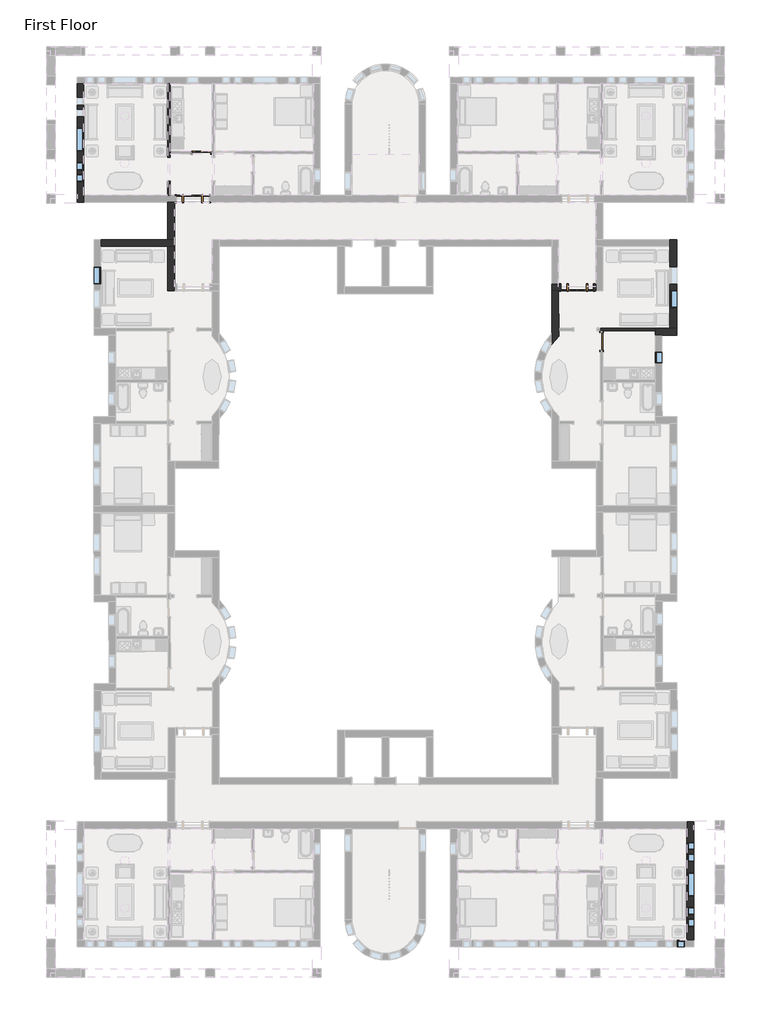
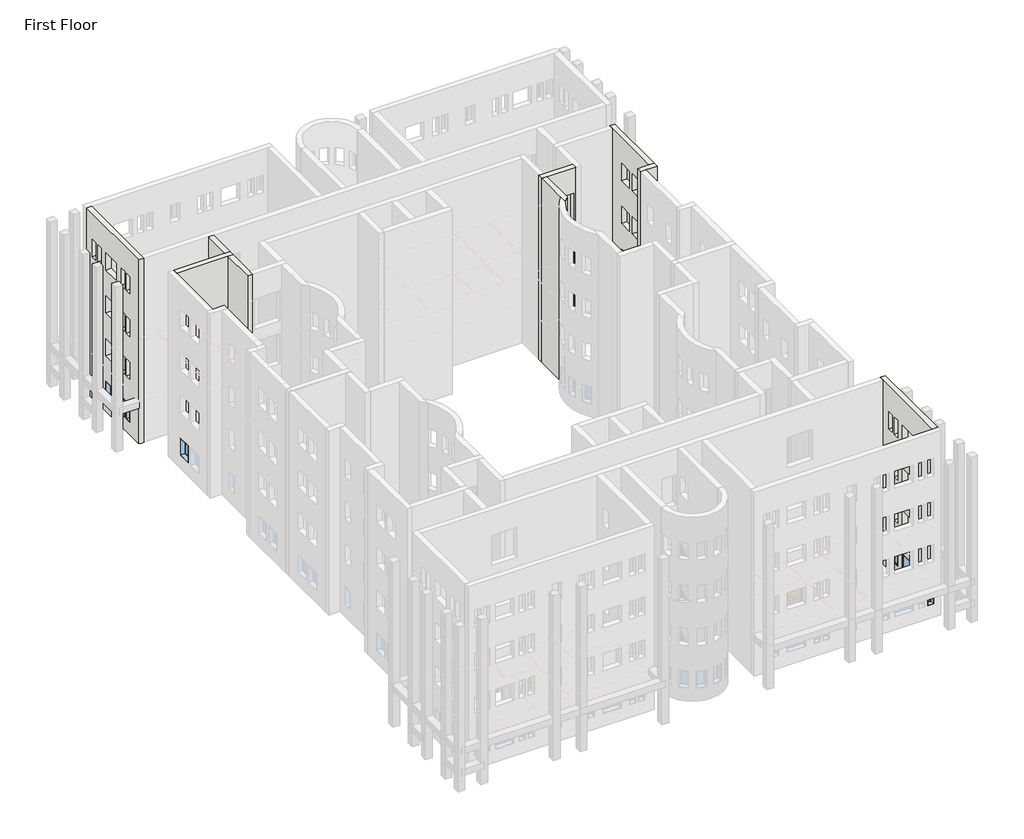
# One storey, part 12 of 21: 12 windows, 11 walls, 4 doors.
"""IFC4 building model written with IfcOpenShell, lengths in millimetres."""

from ifc_helpers import new_model, si_unit, frame, origin, origin_with_axes, place, context, project, spatial, polyline, circle_curve, outline, extrude, faceted_brep, transform, mapped, element, save
from ifc_brep_helpers import plane_surface, revolved_surface, advanced_brep
from components import door_2e3b4da2, door_a3eb833a, door_ffdb1193, window_da97879f, window_d61ef850, window_ed80354a, window_15c49d37, window_0e2fc6ce, window_d89bf842

model = new_model("IFC4")

# Units and contexts
model_context = context("Model", 3, world=origin())
ifc_project = project(units=[si_unit("LENGTHUNIT", "METRE", prefix="MILLI")], contexts=[model_context])

# Site, building, storey
site = spatial("IfcSite", under=ifc_project)
building = spatial("IfcBuilding", under=site)
storey = spatial("IfcBuildingStorey", under=building, Name="First Floor", Elevation=0.0)

# Doors
placement = place(None, origin())
door_shape = door_2e3b4da2(model_context)
element("IfcDoor", 1, ObjectType="Single-Decorative 2 : 36\" x 84\"", at=placement, inside=storey, context=model_context, shape_type="MappedRepresentation", body=[
    mapped(door_shape, transform((-24420.4839563, 6723.5441867, 0.0), x_axis=(1.0, 0.0, 0.0), y_axis=(0.0, 1.0, 0.0), z_axis=(0.0, 0.0, 1.0))),
])
door_2_shape = door_a3eb833a(model_context)
element("IfcDoor", 2, ObjectType="Single-Flush : 36\" x 84\"", at=placement, inside=storey, context=model_context, shape_type="MappedRepresentation", body=[
    mapped(door_2_shape, transform((-3771.2141111, -3005.4940393, 0.0), x_axis=(-0.0007588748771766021, 0.999999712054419, 0.0), y_axis=(-0.999999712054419, -0.0007588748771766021, 0.0), z_axis=(0.0, 0.0, 1.0))),
])
door_3_shape = door_ffdb1193(model_context)
element("IfcDoor", 3, ObjectType="Single-Raised Panel with Sidelights : 36\" x 84\"", at=placement, inside=storey, context=model_context, shape_type="MappedRepresentation", body=[
    mapped(door_3_shape, transform((-24877.6839563, 4350.2316867, 0.0), x_axis=(1.0, 0.0, 0.0), y_axis=(0.0, 1.0, 0.0), z_axis=(0.0, 0.0, 1.0))),
])
element("IfcDoor", 4, ObjectType="Single-Raised Panel with Sidelights : 36\" x 84\"", at=placement, inside=storey, context=model_context, shape_type="MappedRepresentation", body=[
    mapped(door_3_shape, transform((-5029.0381129, -223.5602693, 0.0), x_axis=(-0.9999997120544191, -0.0007588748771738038, 0.0), y_axis=(0.0007588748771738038, -0.9999997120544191, 0.0), z_axis=(0.0, 0.0, 1.0))),
])

# Walls
element("IfcWall", 5, ObjectType="Exterior - Brick on Mtl. Stud", at=placement, inside=storey, context=model_context, shape_type="SweptSolid", body=[
    extrude(outline(polyline([(-25807.9589563, 4174.0191867), (-25807.9589563, 2239.3865094), (-26160.3839563, 2239.653956), (-26160.3839563, 4174.0191867), (-25807.9589563, 4174.0191867)])), origin_with_axes(), (0.0, 0.0, 1.0), 13106.4),
])
element("IfcWall", 6, ObjectType="Exterior - Brick on Mtl. Stud", at=placement, inside=storey, context=model_context, shape_type="Brep", body=[
    faceted_brep([(-30845.0964563, 10270.0191867, 13106.4), (-30845.0964563, 4174.0191867, 13106.4), (-30492.6714563, 4174.0191867, 13106.4), (-30492.6714563, 4526.4441867, 13106.4), (-30492.6714563, 10270.0191867, 13106.4), (-30845.0964563, 10270.0191867, 0.0), (-30845.0964563, 4361.3441867, 0.0), (-30845.0964563, 4174.0191867, 0.0), (-30845.0964563, 5823.4316867, 8229.6), (-30845.0964563, 5823.4316867, 7010.4), (-30845.0964563, 6229.8316867, 7010.4), (-30845.0964563, 6229.8316867, 8229.6), (-30845.0964563, 5213.8316867, 8229.6), (-30845.0964563, 5213.8316867, 7010.4), (-30845.0964563, 5620.2316867, 7010.4), (-30845.0964563, 5620.2316867, 8229.6), (-30845.0964563, 8973.0316867, 8229.6), (-30845.0964563, 8566.6316867, 8229.6), (-30845.0964563, 8566.6316867, 7010.4), (-30845.0964563, 8973.0316867, 7010.4), (-30845.0964563, 9582.6316867, 8229.6), (-30845.0964563, 9176.2316867, 8229.6), (-30845.0964563, 9176.2316867, 7010.4), (-30845.0964563, 9582.6316867, 7010.4), (-30845.0964563, 8007.8316867, 8229.6), (-30845.0964563, 6788.6316867, 8229.6), (-30845.0964563, 6788.6316867, 7010.4), (-30845.0964563, 8007.8316867, 7010.4), (-30845.0964563, 5823.4316867, 5181.6), (-30845.0964563, 5823.4316867, 3962.4), (-30845.0964563, 6229.8316867, 3962.4), (-30845.0964563, 6229.8316867, 5181.6), (-30845.0964563, 5213.8316867, 5181.6), (-30845.0964563, 5213.8316867, 3962.4), (-30845.0964563, 5620.2316867, 3962.4), (-30845.0964563, 5620.2316867, 5181.6), (-30845.0964563, 8973.0316867, 5181.6), (-30845.0964563, 8566.6316867, 5181.6), (-30845.0964563, 8566.6316867, 3962.4), (-30845.0964563, 8973.0316867, 3962.4), (-30845.0964563, 9582.6316867, 5181.6), (-30845.0964563, 9176.2316867, 5181.6), (-30845.0964563, 9176.2316867, 3962.4), (-30845.0964563, 9582.6316867, 3962.4), (-30845.0964563, 8007.8316867, 5181.6), (-30845.0964563, 6788.6316867, 5181.6), (-30845.0964563, 6788.6316867, 3962.4), (-30845.0964563, 8007.8316867, 3962.4), (-30845.0964563, 5823.4316867, 11277.6), (-30845.0964563, 5823.4316867, 10058.4), (-30845.0964563, 6229.8316867, 10058.4), (-30845.0964563, 6229.8316867, 11277.6), (-30845.0964563, 5213.8316867, 11277.6), (-30845.0964563, 5213.8316867, 10058.4), (-30845.0964563, 5620.2316867, 10058.4), (-30845.0964563, 5620.2316867, 11277.6), (-30845.0964563, 8973.0316867, 11277.6), (-30845.0964563, 8566.6316867, 11277.6), (-30845.0964563, 8566.6316867, 10058.4), (-30845.0964563, 8973.0316867, 10058.4), (-30845.0964563, 9582.6316867, 11277.6), (-30845.0964563, 9176.2316867, 11277.6), (-30845.0964563, 9176.2316867, 10058.4), (-30845.0964563, 9582.6316867, 10058.4), (-30845.0964563, 8007.8316867, 11277.6), (-30845.0964563, 6788.6316867, 11277.6), (-30845.0964563, 6788.6316867, 10058.4), (-30845.0964563, 8007.8316867, 10058.4), (-30845.0964563, 5823.4316867, 2133.6), (-30845.0964563, 5823.4316867, 914.4), (-30845.0964563, 6229.8316867, 914.4), (-30845.0964563, 6229.8316867, 2133.6), (-30845.0964563, 5213.8316867, 2133.6), (-30845.0964563, 5213.8316867, 914.4), (-30845.0964563, 5620.2316867, 914.4), (-30845.0964563, 5620.2316867, 2133.6), (-30845.0964563, 8973.0316867, 2133.6), (-30845.0964563, 8566.6316867, 2133.6), (-30845.0964563, 8566.6316867, 914.4), (-30845.0964563, 8973.0316867, 914.4), (-30845.0964563, 9582.6316867, 2133.6), (-30845.0964563, 9176.2316867, 2133.6), (-30845.0964563, 9176.2316867, 914.4), (-30845.0964563, 9582.6316867, 914.4), (-30845.0964563, 8007.8316867, 2133.6), (-30845.0964563, 6788.6316867, 2133.6), (-30845.0964563, 6788.6316867, 914.4), (-30845.0964563, 8007.8316867, 914.4), (-30492.6714563, 10270.0191867, 0.0), (-30492.6714563, 4174.0191867, 0.0), (-30492.6714563, 4361.3441867, 0.0), (-30492.6714563, 4526.4441867, 0.0), (-30492.6714563, 5823.4316867, 8229.6), (-30492.6714563, 6229.8316867, 8229.6), (-30492.6714563, 6229.8316867, 7010.4), (-30492.6714563, 5823.4316867, 7010.4), (-30492.6714563, 5213.8316867, 8229.6), (-30492.6714563, 5620.2316867, 8229.6), (-30492.6714563, 5620.2316867, 7010.4), (-30492.6714563, 5213.8316867, 7010.4), (-30492.6714563, 8973.0316867, 8229.6), (-30492.6714563, 8973.0316867, 7010.4), (-30492.6714563, 8566.6316867, 7010.4), (-30492.6714563, 8566.6316867, 8229.6), (-30492.6714563, 9582.6316867, 8229.6), (-30492.6714563, 9582.6316867, 7010.4), (-30492.6714563, 9176.2316867, 7010.4), (-30492.6714563, 9176.2316867, 8229.6), (-30492.6714563, 8007.8316867, 8229.6), (-30492.6714563, 8007.8316867, 7010.4), (-30492.6714563, 6788.6316867, 7010.4), (-30492.6714563, 6788.6316867, 8229.6), (-30492.6714563, 5823.4316867, 5181.6), (-30492.6714563, 6229.8316867, 5181.6), (-30492.6714563, 6229.8316867, 3962.4), (-30492.6714563, 5823.4316867, 3962.4), (-30492.6714563, 5213.8316867, 5181.6), (-30492.6714563, 5620.2316867, 5181.6), (-30492.6714563, 5620.2316867, 3962.4), (-30492.6714563, 5213.8316867, 3962.4), (-30492.6714563, 8973.0316867, 5181.6), (-30492.6714563, 8973.0316867, 3962.4), (-30492.6714563, 8566.6316867, 3962.4), (-30492.6714563, 8566.6316867, 5181.6), (-30492.6714563, 9582.6316867, 5181.6), (-30492.6714563, 9582.6316867, 3962.4), (-30492.6714563, 9176.2316867, 3962.4), (-30492.6714563, 9176.2316867, 5181.6), (-30492.6714563, 8007.8316867, 5181.6), (-30492.6714563, 8007.8316867, 3962.4), (-30492.6714563, 6788.6316867, 3962.4), (-30492.6714563, 6788.6316867, 5181.6), (-30492.6714563, 5823.4316867, 11277.6), (-30492.6714563, 6229.8316867, 11277.6), (-30492.6714563, 6229.8316867, 10058.4), (-30492.6714563, 5823.4316867, 10058.4), (-30492.6714563, 5213.8316867, 11277.6), (-30492.6714563, 5620.2316867, 11277.6), (-30492.6714563, 5620.2316867, 10058.4), (-30492.6714563, 5213.8316867, 10058.4), (-30492.6714563, 8973.0316867, 11277.6), (-30492.6714563, 8973.0316867, 10058.4), (-30492.6714563, 8566.6316867, 10058.4), (-30492.6714563, 8566.6316867, 11277.6), (-30492.6714563, 9582.6316867, 11277.6), (-30492.6714563, 9582.6316867, 10058.4), (-30492.6714563, 9176.2316867, 10058.4), (-30492.6714563, 9176.2316867, 11277.6), (-30492.6714563, 8007.8316867, 11277.6), (-30492.6714563, 8007.8316867, 10058.4), (-30492.6714563, 6788.6316867, 10058.4), (-30492.6714563, 6788.6316867, 11277.6), (-30492.6714563, 5823.4316867, 2133.6), (-30492.6714563, 6229.8316867, 2133.6), (-30492.6714563, 6229.8316867, 914.4), (-30492.6714563, 5823.4316867, 914.4), (-30492.6714563, 5213.8316867, 2133.6), (-30492.6714563, 5620.2316867, 2133.6), (-30492.6714563, 5620.2316867, 914.4), (-30492.6714563, 5213.8316867, 914.4), (-30492.6714563, 8973.0316867, 2133.6), (-30492.6714563, 8973.0316867, 914.4), (-30492.6714563, 8566.6316867, 914.4), (-30492.6714563, 8566.6316867, 2133.6), (-30492.6714563, 9582.6316867, 2133.6), (-30492.6714563, 9582.6316867, 914.4), (-30492.6714563, 9176.2316867, 914.4), (-30492.6714563, 9176.2316867, 2133.6), (-30492.6714563, 8007.8316867, 2133.6), (-30492.6714563, 8007.8316867, 914.4), (-30492.6714563, 6788.6316867, 914.4), (-30492.6714563, 6788.6316867, 2133.6), (-30657.7714563, 10270.0191867, 0.0), (-30657.7714563, 4174.0191867, 0.0), (-30657.7714563, 4361.3441867, 0.0)], [[[0, 1, 2, 3, 4]], [[5, 6, 7, 1, 0], [8, 9, 10, 11], [12, 13, 14, 15], [16, 17, 18, 19], [20, 21, 22, 23], [24, 25, 26, 27], [28, 29, 30, 31], [32, 33, 34, 35], [36, 37, 38, 39], [40, 41, 42, 43], [44, 45, 46, 47], [48, 49, 50, 51], [52, 53, 54, 55], [56, 57, 58, 59], [60, 61, 62, 63], [64, 65, 66, 67], [68, 69, 70, 71], [72, 73, 74, 75], [76, 77, 78, 79], [80, 81, 82, 83], [84, 85, 86, 87]], [[88, 4, 3, 2, 89, 90, 91], [92, 93, 94, 95], [96, 97, 98, 99], [100, 101, 102, 103], [104, 105, 106, 107], [108, 109, 110, 111], [112, 113, 114, 115], [116, 117, 118, 119], [120, 121, 122, 123], [124, 125, 126, 127], [128, 129, 130, 131], [132, 133, 134, 135], [136, 137, 138, 139], [140, 141, 142, 143], [144, 145, 146, 147], [148, 149, 150, 151], [152, 153, 154, 155], [156, 157, 158, 159], [160, 161, 162, 163], [164, 165, 166, 167], [168, 169, 170, 171]], [[5, 0, 4, 88, 172]], [[90, 89, 173, 174]], [[6, 5, 172, 174]], [[7, 6, 174, 173]], [[172, 88, 91, 90, 174]], [[1, 7, 173, 89, 2]], [[9, 8, 92, 95]], [[10, 9, 95, 94]], [[11, 10, 94, 93]], [[8, 11, 93, 92]], [[13, 12, 96, 99]], [[14, 13, 99, 98]], [[15, 14, 98, 97]], [[12, 15, 97, 96]], [[101, 100, 16, 19]], [[102, 101, 19, 18]], [[103, 102, 18, 17]], [[100, 103, 17, 16]], [[105, 104, 20, 23]], [[106, 105, 23, 22]], [[107, 106, 22, 21]], [[104, 107, 21, 20]], [[109, 108, 24, 27]], [[110, 109, 27, 26]], [[111, 110, 26, 25]], [[108, 111, 25, 24]], [[29, 28, 112, 115]], [[30, 29, 115, 114]], [[31, 30, 114, 113]], [[28, 31, 113, 112]], [[33, 32, 116, 119]], [[34, 33, 119, 118]], [[35, 34, 118, 117]], [[32, 35, 117, 116]], [[121, 120, 36, 39]], [[122, 121, 39, 38]], [[123, 122, 38, 37]], [[120, 123, 37, 36]], [[125, 124, 40, 43]], [[126, 125, 43, 42]], [[127, 126, 42, 41]], [[124, 127, 41, 40]], [[129, 128, 44, 47]], [[130, 129, 47, 46]], [[131, 130, 46, 45]], [[128, 131, 45, 44]], [[49, 48, 132, 135]], [[50, 49, 135, 134]], [[51, 50, 134, 133]], [[48, 51, 133, 132]], [[53, 52, 136, 139]], [[54, 53, 139, 138]], [[55, 54, 138, 137]], [[52, 55, 137, 136]], [[141, 140, 56, 59]], [[142, 141, 59, 58]], [[143, 142, 58, 57]], [[140, 143, 57, 56]], [[145, 144, 60, 63]], [[146, 145, 63, 62]], [[147, 146, 62, 61]], [[144, 147, 61, 60]], [[149, 148, 64, 67]], [[150, 149, 67, 66]], [[151, 150, 66, 65]], [[148, 151, 65, 64]], [[69, 68, 152, 155]], [[70, 69, 155, 154]], [[71, 70, 154, 153]], [[68, 71, 153, 152]], [[73, 72, 156, 159]], [[74, 73, 159, 158]], [[75, 74, 158, 157]], [[72, 75, 157, 156]], [[161, 160, 76, 79]], [[162, 161, 79, 78]], [[163, 162, 78, 77]], [[160, 163, 77, 76]], [[165, 164, 80, 83]], [[166, 165, 83, 82]], [[167, 166, 82, 81]], [[164, 167, 81, 80]], [[169, 168, 84, 87]], [[170, 169, 87, 86]], [[171, 170, 86, 85]], [[168, 171, 85, 84]]]),
])
element("IfcWall", 7, ObjectType="Exterior - Brick on Mtl. Stud", at=placement, inside=storey, context=model_context, shape_type="Brep", body=[
    faceted_brep([(974.7535437, -33878.3558133, 13106.4), (974.7535437, -27782.3558133, 13106.4), (622.3285437, -27782.3558133, 13106.4), (622.3285437, -28134.7808133, 13106.4), (622.3285437, -33878.3558133, 13106.4), (974.7535437, -33878.3558133, 0.0), (974.7535437, -27969.6808133, 0.0), (974.7535437, -27782.3558133, 0.0), (974.7535437, -29431.7683133, 8229.6), (974.7535437, -29431.7683133, 7010.4), (974.7535437, -29838.1683133, 7010.4), (974.7535437, -29838.1683133, 8229.6), (974.7535437, -28822.1683133, 8229.6), (974.7535437, -28822.1683133, 7010.4), (974.7535437, -29228.5683133, 7010.4), (974.7535437, -29228.5683133, 8229.6), (974.7535437, -32581.3683133, 8229.6), (974.7535437, -32174.9683133, 8229.6), (974.7535437, -32174.9683133, 7010.4), (974.7535437, -32581.3683133, 7010.4), (974.7535437, -33190.9683133, 8229.6), (974.7535437, -32784.5683133, 8229.6), (974.7535437, -32784.5683133, 7010.4), (974.7535437, -33190.9683133, 7010.4), (974.7535437, -31616.1683133, 8229.6), (974.7535437, -30396.9683133, 8229.6), (974.7535437, -30396.9683133, 7010.4), (974.7535437, -31616.1683133, 7010.4), (974.7535437, -29431.7683133, 5181.6), (974.7535437, -29431.7683133, 3962.4), (974.7535437, -29838.1683133, 3962.4), (974.7535437, -29838.1683133, 5181.6), (974.7535437, -28822.1683133, 5181.6), (974.7535437, -28822.1683133, 3962.4), (974.7535437, -29228.5683133, 3962.4), (974.7535437, -29228.5683133, 5181.6), (974.7535437, -32581.3683133, 5181.6), (974.7535437, -32174.9683133, 5181.6), (974.7535437, -32174.9683133, 3962.4), (974.7535437, -32581.3683133, 3962.4), (974.7535437, -33190.9683133, 5181.6), (974.7535437, -32784.5683133, 5181.6), (974.7535437, -32784.5683133, 3962.4), (974.7535437, -33190.9683133, 3962.4), (974.7535437, -31616.1683133, 5181.6), (974.7535437, -30396.9683133, 5181.6), (974.7535437, -30396.9683133, 3962.4), (974.7535437, -31616.1683133, 3962.4), (974.7535437, -29431.7683133, 11277.6), (974.7535437, -29431.7683133, 10058.4), (974.7535437, -29838.1683133, 10058.4), (974.7535437, -29838.1683133, 11277.6), (974.7535437, -28822.1683133, 11277.6), (974.7535437, -28822.1683133, 10058.4), (974.7535437, -29228.5683133, 10058.4), (974.7535437, -29228.5683133, 11277.6), (974.7535437, -32581.3683133, 11277.6), (974.7535437, -32174.9683133, 11277.6), (974.7535437, -32174.9683133, 10058.4), (974.7535437, -32581.3683133, 10058.4), (974.7535437, -33190.9683133, 11277.6), (974.7535437, -32784.5683133, 11277.6), (974.7535437, -32784.5683133, 10058.4), (974.7535437, -33190.9683133, 10058.4), (974.7535437, -31616.1683133, 11277.6), (974.7535437, -30396.9683133, 11277.6), (974.7535437, -30396.9683133, 10058.4), (974.7535437, -31616.1683133, 10058.4), (974.7535437, -29431.7683133, 2133.6), (974.7535437, -29431.7683133, 914.4), (974.7535437, -29838.1683133, 914.4), (974.7535437, -29838.1683133, 2133.6), (974.7535437, -28822.1683133, 2133.6), (974.7535437, -28822.1683133, 914.4), (974.7535437, -29228.5683133, 914.4), (974.7535437, -29228.5683133, 2133.6), (974.7535437, -32581.3683133, 2133.6), (974.7535437, -32174.9683133, 2133.6), (974.7535437, -32174.9683133, 914.4), (974.7535437, -32581.3683133, 914.4), (974.7535437, -33190.9683133, 2133.6), (974.7535437, -32784.5683133, 2133.6), (974.7535437, -32784.5683133, 914.4), (974.7535437, -33190.9683133, 914.4), (974.7535437, -31616.1683133, 2133.6), (974.7535437, -30396.9683133, 2133.6), (974.7535437, -30396.9683133, 914.4), (974.7535437, -31616.1683133, 914.4), (622.3285437, -33878.3558133, 0.0), (622.3285437, -27782.3558133, 0.0), (622.3285437, -27969.6808133, 0.0), (622.3285437, -28134.7808133, 0.0), (622.3285437, -29431.7683133, 8229.6), (622.3285437, -29838.1683133, 8229.6), (622.3285437, -29838.1683133, 7010.4), (622.3285437, -29431.7683133, 7010.4), (622.3285437, -28822.1683133, 8229.6), (622.3285437, -29228.5683133, 8229.6), (622.3285437, -29228.5683133, 7010.4), (622.3285437, -28822.1683133, 7010.4), (622.3285437, -32581.3683133, 8229.6), (622.3285437, -32581.3683133, 7010.4), (622.3285437, -32174.9683133, 7010.4), (622.3285437, -32174.9683133, 8229.6), (622.3285437, -33190.9683133, 8229.6), (622.3285437, -33190.9683133, 7010.4), (622.3285437, -32784.5683133, 7010.4), (622.3285437, -32784.5683133, 8229.6), (622.3285437, -31616.1683133, 8229.6), (622.3285437, -31616.1683133, 7010.4), (622.3285437, -30396.9683133, 7010.4), (622.3285437, -30396.9683133, 8229.6), (622.3285437, -29431.7683133, 5181.6), (622.3285437, -29838.1683133, 5181.6), (622.3285437, -29838.1683133, 3962.4), (622.3285437, -29431.7683133, 3962.4), (622.3285437, -28822.1683133, 5181.6), (622.3285437, -29228.5683133, 5181.6), (622.3285437, -29228.5683133, 3962.4), (622.3285437, -28822.1683133, 3962.4), (622.3285437, -32581.3683133, 5181.6), (622.3285437, -32581.3683133, 3962.4), (622.3285437, -32174.9683133, 3962.4), (622.3285437, -32174.9683133, 5181.6), (622.3285437, -33190.9683133, 5181.6), (622.3285437, -33190.9683133, 3962.4), (622.3285437, -32784.5683133, 3962.4), (622.3285437, -32784.5683133, 5181.6), (622.3285437, -31616.1683133, 5181.6), (622.3285437, -31616.1683133, 3962.4), (622.3285437, -30396.9683133, 3962.4), (622.3285437, -30396.9683133, 5181.6), (622.3285437, -29431.7683133, 11277.6), (622.3285437, -29838.1683133, 11277.6), (622.3285437, -29838.1683133, 10058.4), (622.3285437, -29431.7683133, 10058.4), (622.3285437, -28822.1683133, 11277.6), (622.3285437, -29228.5683133, 11277.6), (622.3285437, -29228.5683133, 10058.4), (622.3285437, -28822.1683133, 10058.4), (622.3285437, -32581.3683133, 11277.6), (622.3285437, -32581.3683133, 10058.4), (622.3285437, -32174.9683133, 10058.4), (622.3285437, -32174.9683133, 11277.6), (622.3285437, -33190.9683133, 11277.6), (622.3285437, -33190.9683133, 10058.4), (622.3285437, -32784.5683133, 10058.4), (622.3285437, -32784.5683133, 11277.6), (622.3285437, -31616.1683133, 11277.6), (622.3285437, -31616.1683133, 10058.4), (622.3285437, -30396.9683133, 10058.4), (622.3285437, -30396.9683133, 11277.6), (622.3285437, -29431.7683133, 2133.6), (622.3285437, -29838.1683133, 2133.6), (622.3285437, -29838.1683133, 914.4), (622.3285437, -29431.7683133, 914.4), (622.3285437, -28822.1683133, 2133.6), (622.3285437, -29228.5683133, 2133.6), (622.3285437, -29228.5683133, 914.4), (622.3285437, -28822.1683133, 914.4), (622.3285437, -32581.3683133, 2133.6), (622.3285437, -32581.3683133, 914.4), (622.3285437, -32174.9683133, 914.4), (622.3285437, -32174.9683133, 2133.6), (622.3285437, -33190.9683133, 2133.6), (622.3285437, -33190.9683133, 914.4), (622.3285437, -32784.5683133, 914.4), (622.3285437, -32784.5683133, 2133.6), (622.3285437, -31616.1683133, 2133.6), (622.3285437, -31616.1683133, 914.4), (622.3285437, -30396.9683133, 914.4), (622.3285437, -30396.9683133, 2133.6), (787.4285437, -33878.3558133, 0.0), (787.4285437, -27782.3558133, 0.0), (787.4285437, -27969.6808133, 0.0)], [[[0, 1, 2, 3, 4]], [[5, 6, 7, 1, 0], [8, 9, 10, 11], [12, 13, 14, 15], [16, 17, 18, 19], [20, 21, 22, 23], [24, 25, 26, 27], [28, 29, 30, 31], [32, 33, 34, 35], [36, 37, 38, 39], [40, 41, 42, 43], [44, 45, 46, 47], [48, 49, 50, 51], [52, 53, 54, 55], [56, 57, 58, 59], [60, 61, 62, 63], [64, 65, 66, 67], [68, 69, 70, 71], [72, 73, 74, 75], [76, 77, 78, 79], [80, 81, 82, 83], [84, 85, 86, 87]], [[88, 4, 3, 2, 89, 90, 91], [92, 93, 94, 95], [96, 97, 98, 99], [100, 101, 102, 103], [104, 105, 106, 107], [108, 109, 110, 111], [112, 113, 114, 115], [116, 117, 118, 119], [120, 121, 122, 123], [124, 125, 126, 127], [128, 129, 130, 131], [132, 133, 134, 135], [136, 137, 138, 139], [140, 141, 142, 143], [144, 145, 146, 147], [148, 149, 150, 151], [152, 153, 154, 155], [156, 157, 158, 159], [160, 161, 162, 163], [164, 165, 166, 167], [168, 169, 170, 171]], [[5, 0, 4, 88, 172]], [[1, 7, 173, 89, 2]], [[90, 89, 173, 174]], [[6, 5, 172, 174]], [[7, 6, 174, 173]], [[172, 88, 91, 90, 174]], [[9, 8, 92, 95]], [[10, 9, 95, 94]], [[11, 10, 94, 93]], [[8, 11, 93, 92]], [[13, 12, 96, 99]], [[14, 13, 99, 98]], [[15, 14, 98, 97]], [[12, 15, 97, 96]], [[101, 100, 16, 19]], [[102, 101, 19, 18]], [[103, 102, 18, 17]], [[100, 103, 17, 16]], [[105, 104, 20, 23]], [[106, 105, 23, 22]], [[107, 106, 22, 21]], [[104, 107, 21, 20]], [[109, 108, 24, 27]], [[110, 109, 27, 26]], [[111, 110, 26, 25]], [[108, 111, 25, 24]], [[29, 28, 112, 115]], [[30, 29, 115, 114]], [[31, 30, 114, 113]], [[28, 31, 113, 112]], [[33, 32, 116, 119]], [[34, 33, 119, 118]], [[35, 34, 118, 117]], [[32, 35, 117, 116]], [[121, 120, 36, 39]], [[122, 121, 39, 38]], [[123, 122, 38, 37]], [[120, 123, 37, 36]], [[125, 124, 40, 43]], [[126, 125, 43, 42]], [[127, 126, 42, 41]], [[124, 127, 41, 40]], [[129, 128, 44, 47]], [[130, 129, 47, 46]], [[131, 130, 46, 45]], [[128, 131, 45, 44]], [[49, 48, 132, 135]], [[50, 49, 135, 134]], [[51, 50, 134, 133]], [[48, 51, 133, 132]], [[53, 52, 136, 139]], [[54, 53, 139, 138]], [[55, 54, 138, 137]], [[52, 55, 137, 136]], [[141, 140, 56, 59]], [[142, 141, 59, 58]], [[143, 142, 58, 57]], [[140, 143, 57, 56]], [[145, 144, 60, 63]], [[146, 145, 63, 62]], [[147, 146, 62, 61]], [[144, 147, 61, 60]], [[149, 148, 64, 67]], [[150, 149, 67, 66]], [[151, 150, 66, 65]], [[148, 151, 65, 64]], [[69, 68, 152, 155]], [[70, 69, 155, 154]], [[71, 70, 154, 153]], [[68, 71, 153, 152]], [[73, 72, 156, 159]], [[74, 73, 159, 158]], [[75, 74, 158, 157]], [[72, 75, 157, 156]], [[161, 160, 76, 79]], [[162, 161, 79, 78]], [[163, 162, 78, 77]], [[160, 163, 77, 76]], [[165, 164, 80, 83]], [[166, 165, 83, 82]], [[167, 166, 82, 81]], [[164, 167, 81, 80]], [[169, 168, 84, 87]], [[170, 169, 87, 86]], [[171, 170, 86, 85]], [[168, 171, 85, 84]]]),
])
element("IfcWall", 8, ObjectType="Exterior - Brick on Mtl. Stud", at=placement, inside=storey, context=model_context, shape_type="Brep", body=[
    faceted_brep([(-6348.3839563, -48.3489373, 0.0), (-5995.9589563, -48.0814907, 0.0), (-5867.3715948, -47.983909, 0.0), (-5867.1041483, -400.4088075, 0.0), (-5995.6916113, -400.5063893, 0.0), (-6348.1165098, -400.7738358, 0.0), (-4190.9720775, -46.7117311, 0.0), (-4062.3846146, -46.6141493, 0.0), (-4062.1171681, -399.0390478, 0.0), (-4190.7046311, -399.1366296, 0.0), (-4062.3846146, -46.6141493, 13106.4), (-5995.9589563, -48.0814907, 13106.4), (-6348.3839563, -48.3489373, 13106.4), (-6348.1165098, -400.7738358, 13106.4), (-5995.6916113, -400.5063893, 13106.4), (-4062.1171681, -399.0390478, 13106.4), (-5867.3715948, -47.983909, 2133.6), (-4190.9720775, -46.7117311, 2133.6), (-4190.9720775, -46.7117311, 6096.0), (-4190.9720775, -46.7117311, 8229.6), (-5867.3715948, -47.983909, 8229.6), (-5867.3715948, -47.983909, 6096.0), (-4190.9720775, -46.7117311, 3048.0), (-4190.9720775, -46.7117311, 5181.6), (-5867.3715948, -47.983909, 5181.6), (-5867.3715948, -47.983909, 3048.0), (-4190.9720775, -46.7117311, 9144.0), (-4190.9720775, -46.7117311, 11277.6), (-5867.3715948, -47.983909, 11277.6), (-5867.3715948, -47.983909, 9144.0), (-5867.1041483, -400.4088075, 2133.6), (-4190.7046311, -399.1366296, 2133.6), (-4190.7046311, -399.1366296, 6096.0), (-5867.1041483, -400.4088075, 6096.0), (-5867.1041483, -400.4088075, 8229.6), (-4190.7046311, -399.1366296, 8229.6), (-4190.7046311, -399.1366296, 3048.0), (-5867.1041483, -400.4088075, 3048.0), (-5867.1041483, -400.4088075, 5181.6), (-4190.7046311, -399.1366296, 5181.6), (-4190.7046311, -399.1366296, 9144.0), (-5867.1041483, -400.4088075, 9144.0), (-5867.1041483, -400.4088075, 11277.6), (-4190.7046311, -399.1366296, 11277.6)], [[[0, 1, 2, 3, 4, 5]], [[6, 7, 8, 9]], [[10, 11, 12, 13, 14, 15]], [[16, 2, 1, 0, 12, 11, 10, 7, 6, 17], [18, 19, 20, 21], [22, 23, 24, 25], [26, 27, 28, 29]], [[5, 4, 3, 30, 31, 9, 8, 15, 14, 13], [32, 33, 34, 35], [36, 37, 38, 39], [40, 41, 42, 43]], [[7, 10, 15, 8]], [[12, 0, 5, 13]], [[30, 3, 2, 16]], [[31, 30, 16, 17]], [[9, 31, 17, 6]], [[33, 32, 18, 21]], [[34, 33, 21, 20]], [[35, 34, 20, 19]], [[32, 35, 19, 18]], [[37, 36, 22, 25]], [[38, 37, 25, 24]], [[39, 38, 24, 23]], [[36, 39, 23, 22]], [[41, 40, 26, 29]], [[42, 41, 29, 28]], [[43, 42, 28, 27]], [[40, 43, 27, 26]]]),
])
element("IfcWall", 9, ObjectType="Exterior - Brick on Mtl. Stud", at=placement, inside=storey, context=model_context, shape_type="AdvancedBrep", body=[
    advanced_brep(
    [(-6346.0301375, -3150.0698944, 0.0), (-6346.4535097, -2592.1754708, 0.0), (-6348.1165098, -400.7738358, 0.0), (-5995.6916113, -400.5063893, 0.0), (-5994.2242698, -2334.0808325, 0.0), (-5994.1278927, -2461.080796, 0.0), (-5993.9193325, -2735.9088692, 0.0), (-6348.1165098, -400.7738358, 13106.4), (-6346.4535097, -2592.1754708, 13106.4), (-6346.0301375, -3150.0698944, 13106.4), (-5993.9193325, -2735.9088692, 13106.4), (-5995.6916113, -400.5063893, 13106.4), (-6346.0301375, -3150.0698944, 914.4), (-6346.0675411, -3100.7816606, 914.4), (-6346.0675411, -3100.7816606, 2133.6), (-6346.0301375, -3150.0698944, 2133.6), (-6346.0301375, -3150.0698944, 3962.4), (-6346.0675411, -3100.7816606, 3962.4), (-6346.0675411, -3100.7816606, 5181.6), (-6346.0301375, -3150.0698944, 5181.6), (-6346.0301375, -3150.0698944, 7010.4), (-6346.0675411, -3100.7816606, 7010.4), (-6346.0675411, -3100.7816606, 8229.6), (-6346.0301375, -3150.0698944, 8229.6), (-6346.0301375, -3150.0698944, 10058.4), (-6346.0675411, -3100.7816606, 10058.4), (-6346.0675411, -3100.7816606, 11277.6), (-6346.0301375, -3150.0698944, 11277.6), (-5993.9193325, -2735.9088692, 12192.0), (-5993.9193325, -2735.9088692, 9144.0), (-5993.9193325, -2735.9088692, 6096.0), (-5993.9193325, -2735.9088692, 3048.0), (-6340.5664592, -3142.2769269, 11277.6), (-6340.5664592, -3142.2769269, 10058.4), (-6340.5664592, -3142.2769269, 8229.6), (-6340.5664592, -3142.2769269, 7010.4), (-6340.5664592, -3142.2769269, 5181.6), (-6340.5664592, -3142.2769269, 3962.4), (-6340.5664592, -3142.2769269, 2133.6), (-6340.5664592, -3142.2769269, 914.4), (-6324.0571164, -3113.3386506, 2133.6), (-6324.0571164, -3113.3386506, 914.4), (-6324.0571164, -3113.3386506, 11277.6), (-6324.0571164, -3113.3386506, 10058.4), (-6324.0571164, -3113.3386506, 5181.6), (-6324.0571164, -3113.3386506, 3962.4), (-6324.0571164, -3113.3386506, 8229.6), (-6324.0571164, -3113.3386506, 7010.4)],
    [
        (0, 1),
        (1, 2),
        (2, 3),
        (3, 4),
        (4, 5),
        (5, 6),
        (6, 0, circle_curve(frame((-3991.8614496, -4794.7744983, 0.0), z_axis=(0.0, 0.0, 1.0), x_axis=(-0.0007588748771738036, 0.999999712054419, 0.0)), 2871.7875)),
        (7, 8),
        (8, 9),
        (9, 10, circle_curve(frame((-3991.8614496, -4794.7744983, 13106.4), z_axis=(0.0, 0.0, -1.0), x_axis=(-0.0007588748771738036, 0.999999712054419, 0.0)), 2871.7875)),
        (10, 11),
        (11, 7),
        (0, 12),
        (12, 13),
        (13, 14),
        (14, 15),
        (15, 16),
        (16, 17),
        (17, 18),
        (18, 19),
        (19, 20),
        (20, 21),
        (21, 22),
        (22, 23),
        (23, 24),
        (24, 25),
        (25, 26),
        (26, 27),
        (27, 9),
        (7, 2),
        (3, 11),
        (10, 28),
        (28, 29),
        (29, 30),
        (30, 31),
        (31, 6),
        (27, 32, circle_curve(frame((-3991.8614496, -4794.7744983, 11277.6), z_axis=(0.0, 0.0, -1.0), x_axis=(-0.0007588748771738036, 0.999999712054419, 0.0)), 2871.7875)),
        (32, 33),
        (33, 24, circle_curve(frame((-3991.8614496, -4794.7744983, 10058.4), z_axis=(0.0, 0.0, 1.0), x_axis=(-0.0007588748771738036, 0.999999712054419, 0.0)), 2871.7875)),
        (23, 34, circle_curve(frame((-3991.8614496, -4794.7744983, 8229.6), z_axis=(0.0, 0.0, -1.0), x_axis=(-0.0007588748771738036, 0.999999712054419, 0.0)), 2871.7875)),
        (34, 35),
        (35, 20, circle_curve(frame((-3991.8614496, -4794.7744983, 7010.4), z_axis=(0.0, 0.0, 1.0), x_axis=(-0.0007588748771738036, 0.999999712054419, 0.0)), 2871.7875)),
        (19, 36, circle_curve(frame((-3991.8614496, -4794.7744983, 5181.6), z_axis=(0.0, 0.0, -1.0), x_axis=(-0.0007588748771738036, 0.999999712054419, 0.0)), 2871.7875)),
        (36, 37),
        (37, 16, circle_curve(frame((-3991.8614496, -4794.7744983, 3962.4), z_axis=(0.0, 0.0, 1.0), x_axis=(-0.0007588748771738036, 0.999999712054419, 0.0)), 2871.7875)),
        (15, 38, circle_curve(frame((-3991.8614496, -4794.7744983, 2133.6), z_axis=(0.0, 0.0, -1.0), x_axis=(-0.0007588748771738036, 0.999999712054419, 0.0)), 2871.7875)),
        (38, 39),
        (39, 12, circle_curve(frame((-3991.8614496, -4794.7744983, 914.4), z_axis=(0.0, 0.0, 1.0), x_axis=(-0.0007588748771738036, 0.999999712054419, 0.0)), 2871.7875)),
        (40, 41),
        (41, 39),
        (38, 40),
        (41, 13),
        (40, 14),
        (42, 43),
        (43, 33),
        (32, 42),
        (43, 25),
        (42, 26),
        (44, 45),
        (45, 37),
        (36, 44),
        (45, 17),
        (44, 18),
        (46, 47),
        (47, 35),
        (34, 46),
        (47, 21),
        (46, 22),
    ],
    [
        plane_surface(frame((-6348.2502331, -224.5613865, 0.0), z_axis=(0.0, 0.0, -1.0), x_axis=(0.999999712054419, 0.0007588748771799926, 0.0))),
        plane_surface(frame((-6346.3997926, -2662.9606844, 13106.4), z_axis=(0.0, 0.0, 1.0), x_axis=(0.999999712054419, 0.0007588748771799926, 0.0))),
        plane_surface(frame((-6348.2502331, -224.5613865, 0.0), z_axis=(-0.999999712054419, -0.0007588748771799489, 0.0), x_axis=(0.0007588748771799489, -0.999999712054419, 0.0))),
        plane_surface(frame((-5995.8253346, -224.2939401, 0.0), z_axis=(0.999999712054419, 0.0007588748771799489, 0.0), x_axis=(-0.0007588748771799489, 0.999999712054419, 0.0))),
        revolved_surface(polyline([(-3994.040776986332, -1922.9878252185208, 0.0), (-3994.040776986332, -1922.9878252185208, 13106.399999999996)]), (-3991.8614496, -4794.7744983, 0.0), (0.0, 0.0, -0.9999999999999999)),
        plane_surface(frame((-3885.9047188, -398.9053246, 0.0), z_axis=(-0.0007588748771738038, 0.9999997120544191, 0.0), x_axis=(0.9999997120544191, 0.0007588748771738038, 0.0))),
        plane_surface(frame((-6626.1334692, -3642.8308952, 2133.6), z_axis=(-0.8685896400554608, 0.49553207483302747, 0.0), x_axis=(0.0, 0.0, -1.0))),
        plane_surface(frame((-6626.1334692, -3642.8308952, 914.4), z_axis=(0.0, 0.0, 1.0), x_axis=(-0.8685896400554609, 0.49553207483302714, 0.0))),
        plane_surface(frame((-6324.0571164, -3113.3386506, 914.4), z_axis=(-0.49553207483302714, -0.8685896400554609, 0.0), x_axis=(-0.8685896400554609, 0.49553207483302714, 0.0))),
        plane_surface(frame((-6324.0571164, -3113.3386506, 2133.6), z_axis=(0.0, 0.0, -1.0), x_axis=(-0.8685896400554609, 0.49553207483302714, 0.0))),
        plane_surface(frame((-6626.1334692, -3642.8308952, 11277.6), z_axis=(-0.8685896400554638, 0.49553207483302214, 0.0), x_axis=(0.0, 0.0, -1.0))),
        plane_surface(frame((-6626.1334692, -3642.8308952, 10058.4), z_axis=(0.0, 0.0, 1.0), x_axis=(-0.8685896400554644, 0.4955320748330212, 0.0))),
        plane_surface(frame((-6324.0571164, -3113.3386506, 10058.4), z_axis=(-0.4955320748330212, -0.8685896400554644, 0.0), x_axis=(-0.8685896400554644, 0.4955320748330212, 0.0))),
        plane_surface(frame((-6324.0571164, -3113.3386506, 11277.6), z_axis=(0.0, 0.0, -1.0), x_axis=(-0.8685896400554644, 0.4955320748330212, 0.0))),
        plane_surface(frame((-6626.1334692, -3642.8308952, 5181.6), z_axis=(-0.8685896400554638, 0.49553207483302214, 0.0), x_axis=(0.0, 0.0, -1.0))),
        plane_surface(frame((-6626.1334692, -3642.8308952, 3962.4), z_axis=(0.0, 0.0, 1.0), x_axis=(-0.8685896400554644, 0.4955320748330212, 0.0))),
        plane_surface(frame((-6324.0571164, -3113.3386506, 3962.4), z_axis=(-0.4955320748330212, -0.8685896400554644, 0.0), x_axis=(-0.8685896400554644, 0.4955320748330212, 0.0))),
        plane_surface(frame((-6324.0571164, -3113.3386506, 5181.6), z_axis=(0.0, 0.0, -1.0), x_axis=(-0.8685896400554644, 0.4955320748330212, 0.0))),
        plane_surface(frame((-6626.1334692, -3642.8308952, 8229.6), z_axis=(-0.8685896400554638, 0.49553207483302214, 0.0), x_axis=(0.0, 0.0, -1.0))),
        plane_surface(frame((-6626.1334692, -3642.8308952, 7010.4), z_axis=(0.0, 0.0, 1.0), x_axis=(-0.8685896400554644, 0.4955320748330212, 0.0))),
        plane_surface(frame((-6324.0571164, -3113.3386506, 7010.4), z_axis=(-0.4955320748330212, -0.8685896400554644, 0.0), x_axis=(-0.8685896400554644, 0.4955320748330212, 0.0))),
        plane_surface(frame((-6324.0571164, -3113.3386506, 8229.6), z_axis=(0.0, 0.0, -1.0), x_axis=(-0.8685896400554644, 0.4955320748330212, 0.0))),
    ],
    [
        (0, [[1, 2, 3, 4, 5, 6, 7]]),
        (1, [[8, 9, 10, 11, 12]]),
        (2, [[-2, -1, 13, 14, 15, 16, 17, 18, 19, 20, 21, 22, 23, 24, 25, 26, 27, 28, 29, -9, -8, 30]]),
        (3, [[-6, -5, -4, 31, -11, 32, 33, 34, 35, 36]]),
        (4, [[-7, -36, -35, -34, -33, -32, -10, -29, 37, 38, 39, -25, 40, 41, 42, -21, 43, 44, 45, -17, 46, 47, 48, -13]]),
        (5, [[-30, -12, -31, -3]]),
        (6, [[49, 50, -47, 51]]),
        (7, [[52, -14, -48, -50]]),
        (8, [[-49, 53, -15, -52]]),
        (9, [[-53, -51, -46, -16]]),
        (10, [[54, 55, -38, 56]]),
        (11, [[57, -26, -39, -55]]),
        (12, [[-54, 58, -27, -57]]),
        (13, [[-58, -56, -37, -28]]),
        (14, [[59, 60, -44, 61]]),
        (15, [[62, -18, -45, -60]]),
        (16, [[-59, 63, -19, -62]]),
        (17, [[-63, -61, -43, -20]]),
        (18, [[64, 65, -41, 66]]),
        (19, [[67, -22, -42, -65]]),
        (20, [[-64, 68, -23, -67]]),
        (21, [[-68, -66, -40, -24]]),
    ],
),
])
element("IfcWall", 10, ObjectType="Exterior - Brick on Mtl. Stud", at=placement, inside=storey, context=model_context, shape_type="Brep", body=[
    faceted_brep([(-1012.3832578, -2682.725339, 13106.4), (-1012.3832578, -2682.725339, 0.0), (-659.9583592, -2682.4578925, 0.0), (102.0414213, -2681.8796298, 0.0), (102.0414213, -2681.8796298, 13106.4), (-659.9583592, -2682.4578925, 13106.4), (-1012.6507042, -2330.3004404, 0.0), (-1012.6507042, -2330.3004404, 13106.4), (-250.6509237, -2329.7221778, 13106.4), (101.7739749, -2329.4547313, 13106.4), (101.7739749, -2329.4547313, 0.0), (-250.6509237, -2329.7221778, 0.0)], [[[0, 1, 2, 3, 4, 5]], [[6, 7, 8, 9, 10, 11]], [[3, 2, 1, 6, 11, 10]], [[0, 5, 4, 9, 8, 7]], [[0, 7, 6, 1]], [[4, 3, 10, 9]]]),
])
element("IfcWall", 11, ObjectType="Exterior - Brick on Mtl. Stud", at=placement, inside=storey, context=model_context, shape_type="Brep", body=[
    faceted_brep([(98.3043989, 2242.5439522, 0.0), (101.7739749, -2329.4547313, 0.0), (-250.6509237, -2329.7221778, 0.0), (-253.8530531, 1889.8516072, 0.0), (-254.1204996, 2242.2765057, 0.0), (101.7739749, -2329.4547313, 13106.4), (98.3043989, 2242.5439522, 13106.4), (-254.1204996, 2242.2765057, 13106.4), (-253.8530531, 1889.8516072, 13106.4), (-250.6509237, -2329.7221778, 13106.4), (100.9824779, -1286.4675316, 8229.6), (100.2885627, -372.0677949, 8229.6), (100.2885627, -372.0677949, 7010.4), (100.9824779, -1286.4675316, 7010.4), (100.0572576, -67.2678827, 8229.6), (99.3633424, 847.131854, 8229.6), (99.3633424, 847.131854, 7010.4), (100.0572576, -67.2678827, 7010.4), (100.9824779, -1286.4675316, 5181.6), (100.2885627, -372.0677949, 5181.6), (100.2885627, -372.0677949, 3962.4), (100.9824779, -1286.4675316, 3962.4), (100.0572576, -67.2678827, 5181.6), (99.3633424, 847.131854, 5181.6), (99.3633424, 847.131854, 3962.4), (100.0572576, -67.2678827, 3962.4), (100.9824779, -1286.4675316, 11277.6), (100.2885627, -372.0677949, 11277.6), (100.2885627, -372.0677949, 10058.4), (100.9824779, -1286.4675316, 10058.4), (100.0572576, -67.2678827, 11277.6), (99.3633424, 847.131854, 11277.6), (99.3633424, 847.131854, 10058.4), (100.0572576, -67.2678827, 10058.4), (100.9824779, -1286.4675316, 2133.6), (100.2885627, -372.0677949, 2133.6), (100.2885627, -372.0677949, 914.4), (100.9824779, -1286.4675316, 914.4), (100.0572576, -67.2678827, 2133.6), (99.3633424, 847.131854, 2133.6), (99.3633424, 847.131854, 914.4), (100.0572576, -67.2678827, 914.4), (-251.4424207, -1286.7349781, 8229.6), (-251.4424207, -1286.7349781, 7010.4), (-252.1363359, -372.3352414, 7010.4), (-252.1363359, -372.3352414, 8229.6), (-252.3676409, -67.5353292, 8229.6), (-252.3676409, -67.5353292, 7010.4), (-253.0615561, 846.8644075, 7010.4), (-253.0615561, 846.8644075, 8229.6), (-251.4424207, -1286.7349781, 5181.6), (-251.4424207, -1286.7349781, 3962.4), (-252.1363359, -372.3352414, 3962.4), (-252.1363359, -372.3352414, 5181.6), (-252.3676409, -67.5353292, 5181.6), (-252.3676409, -67.5353292, 3962.4), (-253.0615561, 846.8644075, 3962.4), (-253.0615561, 846.8644075, 5181.6), (-251.4424207, -1286.7349781, 11277.6), (-251.4424207, -1286.7349781, 10058.4), (-252.1363359, -372.3352414, 10058.4), (-252.1363359, -372.3352414, 11277.6), (-252.3676409, -67.5353292, 11277.6), (-252.3676409, -67.5353292, 10058.4), (-253.0615561, 846.8644075, 10058.4), (-253.0615561, 846.8644075, 11277.6), (-251.4424207, -1286.7349781, 2133.6), (-251.4424207, -1286.7349781, 914.4), (-252.1363359, -372.3352414, 914.4), (-252.1363359, -372.3352414, 2133.6), (-252.3676409, -67.5353292, 2133.6), (-252.3676409, -67.5353292, 914.4), (-253.0615561, 846.8644075, 914.4), (-253.0615561, 846.8644075, 2133.6)], [[[0, 1, 2, 3, 4]], [[5, 6, 7, 8, 9]], [[1, 0, 6, 5], [10, 11, 12, 13], [14, 15, 16, 17], [18, 19, 20, 21], [22, 23, 24, 25], [26, 27, 28, 29], [30, 31, 32, 33], [34, 35, 36, 37], [38, 39, 40, 41]], [[2, 9, 8, 7, 4, 3], [42, 43, 44, 45], [46, 47, 48, 49], [50, 51, 52, 53], [54, 55, 56, 57], [58, 59, 60, 61], [62, 63, 64, 65], [66, 67, 68, 69], [70, 71, 72, 73]], [[1, 5, 9, 2]], [[6, 0, 4, 7]], [[43, 42, 10, 13]], [[44, 43, 13, 12]], [[45, 44, 12, 11]], [[42, 45, 11, 10]], [[47, 46, 14, 17]], [[48, 47, 17, 16]], [[49, 48, 16, 15]], [[46, 49, 15, 14]], [[51, 50, 18, 21]], [[52, 51, 21, 20]], [[53, 52, 20, 19]], [[50, 53, 19, 18]], [[55, 54, 22, 25]], [[56, 55, 25, 24]], [[57, 56, 24, 23]], [[54, 57, 23, 22]], [[59, 58, 26, 29]], [[60, 59, 29, 28]], [[61, 60, 28, 27]], [[58, 61, 27, 26]], [[63, 62, 30, 33]], [[64, 63, 33, 32]], [[65, 64, 32, 31]], [[62, 65, 31, 30]], [[67, 66, 34, 37]], [[68, 67, 37, 36]], [[69, 68, 36, 35]], [[66, 69, 35, 34]], [[71, 70, 38, 41]], [[72, 71, 41, 40]], [[73, 72, 40, 39]], [[70, 73, 39, 38]]]),
])
element("IfcWall", 12, ObjectType="Exterior - Brick on Mtl. Stud", at=placement, inside=storey, context=model_context, shape_type="Brep", body=[
    faceted_brep([(-29616.4898595, 1889.8516072, 0.0), (-26158.9158551, 1887.2277404, 0.0), (-25806.4909566, 1886.9602939, 0.0), (-25806.4909566, 1886.9602939, 13106.4), (-26158.9158551, 1887.2277404, 13106.4), (-29616.4898595, 1889.8516072, 13106.4), (-29616.222413, 2242.2765057, 0.0), (-29616.222413, 2242.2765057, 13106.4), (-26160.3839563, 2239.653956, 13106.4), (-25807.9589563, 2239.3865094, 13106.4), (-25806.2235101, 2239.3851925, 13106.4), (-25806.2235101, 2239.3851925, 0.0), (-25807.9589563, 2239.3865094, 0.0), (-26160.3839563, 2239.653956, 0.0)], [[[0, 1, 2, 3, 4, 5]], [[6, 7, 8, 9, 10, 11, 12, 13]], [[2, 1, 0, 6, 13, 12, 11]], [[5, 4, 3, 10, 9, 8, 7]], [[3, 2, 11, 10]], [[0, 5, 7, 6]]]),
])
element("IfcWall", 13, ObjectType="Exterior - Brick on Mtl. Stud", at=placement, inside=storey, context=model_context, shape_type="Brep", body=[
    faceted_brep([(-26158.9158551, 1887.2277404, 0.0), (-26160.6506431, -398.7716013, 0.0), (-26160.6506431, -398.7716013, 13106.4), (-26158.9158551, 1887.2277404, 13106.4), (-25806.4909566, 1886.9602939, 0.0), (-25806.4909566, 1886.9602939, 13106.4), (-25807.9582981, -46.6141493, 13106.4), (-25808.2257445, -399.0390478, 13106.4), (-25808.2257445, -399.0390478, 0.0), (-25807.9582981, -46.6141493, 0.0)], [[[0, 1, 2, 3]], [[4, 5, 6, 7, 8, 9]], [[1, 0, 4, 9, 8]], [[3, 2, 7, 6, 5]], [[2, 1, 8, 7]], [[0, 3, 5, 4]]]),
])
element("IfcWall", 14, ObjectType="Interior - 5\" Partition (2-hr)", at=placement, inside=storey, context=model_context, shape_type="Brep", body=[
    faceted_brep([(-26033.3839563, 10270.0191867, 0.0), (-26033.3839563, 6787.0441867, 0.0), (-26033.3839563, 6660.0441867, 0.0), (-26033.3839563, 6483.8316867, 0.0), (-26160.3839563, 6483.8316867, 0.0), (-26160.3839563, 10270.0191867, 0.0), (-26033.3839563, 5264.6316867, 0.0), (-26033.3839563, 4526.4441867, 0.0), (-26160.3839563, 4526.4441867, 0.0), (-26160.3839563, 5264.6316867, 0.0), (-26160.3839563, 10270.0191867, 3048.0), (-26160.3839563, 4526.4441867, 3048.0), (-26033.3839563, 4526.4441867, 3048.0), (-26033.3839563, 6660.0441867, 3048.0), (-26033.3839563, 6787.0441867, 3048.0), (-26033.3839563, 10270.0191867, 3048.0), (-26160.3839563, 6483.8316867, 2133.6), (-26160.3839563, 5264.6316867, 2133.6), (-26033.3839563, 6483.8316867, 2133.6), (-26033.3839563, 5264.6316867, 2133.6)], [[[0, 1, 2, 3, 4, 5]], [[6, 7, 8, 9]], [[10, 11, 12, 13, 14, 15]], [[5, 4, 16, 17, 9, 8, 11, 10]], [[18, 3, 2, 1, 0, 15, 14, 13, 12, 7, 6, 19]], [[5, 10, 15, 0]], [[11, 8, 7, 12]], [[9, 17, 19, 6]], [[16, 4, 3, 18]], [[17, 16, 18, 19]]]),
])
element("IfcWall", 15, ObjectType="Interior - 5\" Partition (2-hr)", at=placement, inside=storey, context=model_context, shape_type="Brep", body=[
    faceted_brep([(-1012.6507042, -2330.3004404, 0.0), (-3835.2248915, -2332.4424217, 0.0), (-3835.2248915, -2332.4424217, 3048.0), (-1012.6507042, -2330.3004404, 3048.0), (-1012.5543271, -2457.3004039, 0.0), (-1012.5543271, -2457.3004039, 3048.0), (-3708.128551, -2459.346008, 3048.0), (-3835.1285144, -2459.4423851, 3048.0), (-3835.1285144, -2459.4423851, 0.0), (-3708.128551, -2459.346008, 0.0)], [[[0, 1, 2, 3]], [[4, 5, 6, 7, 8, 9]], [[1, 0, 4, 9, 8]], [[3, 2, 7, 6, 5]], [[2, 1, 8, 7]], [[0, 3, 5, 4]]]),
])

# Windows
window_shape = window_da97879f(model_context)
element("IfcWindow", 16, ObjectType="Fixed : 16\" x 48\"", at=placement, inside=storey, context=model_context, shape_type="MappedRepresentation", body=[
    mapped(window_shape, transform((-30668.8839563, 5378.9316867, 0.0), x_axis=(0.0, -1.0, 0.0), y_axis=(1.0, 0.0, 0.0), z_axis=(0.0, 0.0, 1.0))),
])
element("IfcWindow", 17, ObjectType="Fixed : 16\" x 48\"", at=placement, inside=storey, context=model_context, shape_type="MappedRepresentation", body=[
    mapped(window_shape, transform((-30668.8839563, 5988.5316867, 0.0), x_axis=(0.0, -1.0, 0.0), y_axis=(1.0, 0.0, 0.0), z_axis=(0.0, 0.0, 1.0))),
])
element("IfcWindow", 18, ObjectType="Fixed : 16\" x 48\"", at=placement, inside=storey, context=model_context, shape_type="MappedRepresentation", body=[
    mapped(window_shape, transform((354.0410437, -34054.5683133, 0.0), x_axis=(1.0, 0.0, 0.0), y_axis=(0.0, 1.0, 0.0), z_axis=(0.0, 0.0, 1.0))),
])
element("IfcWindow", 19, ObjectType="Fixed : 16\" x 48\"", at=placement, inside=storey, context=model_context, shape_type="MappedRepresentation", body=[
    mapped(window_shape, transform((798.5410437, -28987.2683133, 0.0), x_axis=(0.0, 1.0, 0.0), y_axis=(-1.0, 0.0, 0.0), z_axis=(0.0, 0.0, 1.0))),
])
element("IfcWindow", 20, ObjectType="Fixed : 16\" x 48\"", at=placement, inside=storey, context=model_context, shape_type="MappedRepresentation", body=[
    mapped(window_shape, transform((798.5410437, -29596.8683133, 0.0), x_axis=(0.0, 1.0, 0.0), y_axis=(-1.0, 0.0, 0.0), z_axis=(0.0, 0.0, 1.0))),
])
window_2_shape = window_d61ef850(model_context)
element("IfcWindow", 21, ObjectType="Fixed : 16\" x 48\"", at=placement, inside=storey, context=model_context, shape_type="MappedRepresentation", body=[
    mapped(window_2_shape, transform((798.5410437, -33025.8683133, 0.0), x_axis=(0.0, -1.0, 0.0), y_axis=(1.0, 0.0, 0.0), z_axis=(0.0, 0.0, 1.0))),
])
element("IfcWindow", 22, ObjectType="Fixed : 16\" x 48\"", at=placement, inside=storey, context=model_context, shape_type="MappedRepresentation", body=[
    mapped(window_2_shape, transform((798.5410437, -32416.2683133, 0.0), x_axis=(0.0, -1.0, 0.0), y_axis=(1.0, 0.0, 0.0), z_axis=(0.0, 0.0, 1.0))),
])
window_3_shape = window_ed80354a(model_context)
element("IfcWindow", 23, ObjectType="Fixed : 24\" x 48\"", at=placement, inside=storey, context=model_context, shape_type="MappedRepresentation", body=[
    mapped(window_3_shape, transform((-835.2648637, -3876.391272, 0.0), x_axis=(0.0007588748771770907, -0.9999997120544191, 0.0), y_axis=(0.9999997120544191, 0.0007588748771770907, 0.0), z_axis=(0.0, 0.0, 1.0))),
])
window_4_shape = window_15c49d37(model_context)
element("IfcWindow", 24, ObjectType="Fixed : 36\" x 48\"", at=placement, inside=storey, context=model_context, shape_type="MappedRepresentation", body=[
    mapped(window_4_shape, transform((-29793.8696765, 351.6982734, 0.0), x_axis=(-0.0007588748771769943, -0.999999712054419, 0.0), y_axis=(0.999999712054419, -0.0007588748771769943, 0.0), z_axis=(0.0, 0.0, 1.0))),
])
window_5_shape = window_0e2fc6ce(model_context)
element("IfcWindow", 25, ObjectType="Fixed : 36\" x 48\"", at=placement, inside=storey, context=model_context, shape_type="MappedRepresentation", body=[
    mapped(window_5_shape, transform((-75.5480159, -867.5013755, 0.0), x_axis=(0.0007588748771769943, -0.999999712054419, 0.0), y_axis=(0.999999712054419, 0.0007588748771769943, 0.0), z_axis=(0.0, 0.0, 1.0))),
])
window_6_shape = window_d89bf842(model_context)
element("IfcWindow", 26, ObjectType="Fixed : 48\" x 48\"", at=placement, inside=storey, context=model_context, shape_type="MappedRepresentation", body=[
    mapped(window_6_shape, transform((-30668.8839563, 7436.3316867, 0.0), x_axis=(0.0, 1.0, 0.0), y_axis=(-1.0, 0.0, 0.0), z_axis=(0.0, 0.0, 1.0))),
])
element("IfcWindow", 27, ObjectType="Fixed : 48\" x 48\"", at=placement, inside=storey, context=model_context, shape_type="MappedRepresentation", body=[
    mapped(window_6_shape, transform((798.5410437, -31044.6683133, 0.0), x_axis=(0.0, -1.0, 0.0), y_axis=(1.0, 0.0, 0.0), z_axis=(0.0, 0.0, 1.0))),
])

save(model, "model.ifc")
